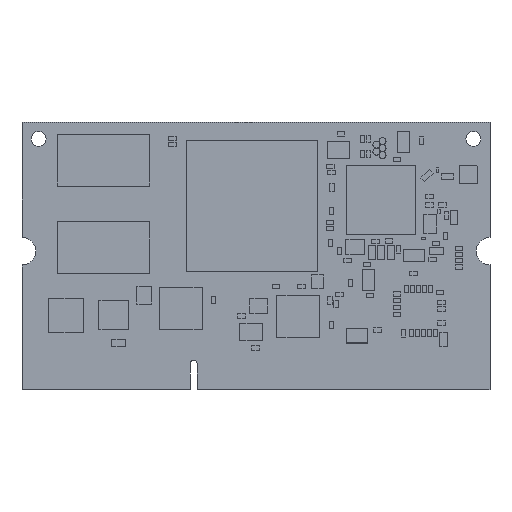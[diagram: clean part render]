
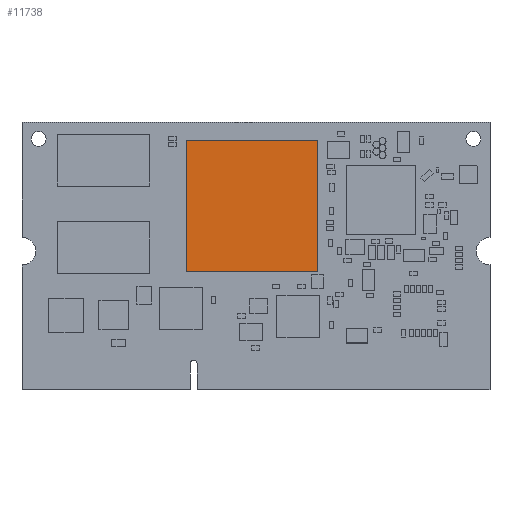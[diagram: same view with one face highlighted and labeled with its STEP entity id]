
A CAD part, top view. The second image highlights one B-rep face of the part: STEP entity #11738.
In plain terms, the highlighted planar face has unit normal (0, 0, 1).
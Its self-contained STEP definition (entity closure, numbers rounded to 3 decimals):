
#1668 = VERTEX_POINT ( 'NONE', #38719 ) ;
#2330 = ORIENTED_EDGE ( 'NONE', *, *, #19533, .T. ) ;
#5774 = CARTESIAN_POINT ( 'NONE',  ( 42.738, 36.037, 2.28 ) ) ;
#6591 = CARTESIAN_POINT ( 'NONE',  ( 23.738, 36.037, 2.28 ) ) ;
#7450 = CARTESIAN_POINT ( 'NONE',  ( 42.738, 17.036, 2.28 ) ) ;
#8796 = DIRECTION ( 'NONE',  ( 0., 0., -1. ) ) ;
#11738 = ADVANCED_FACE ( 'NONE', ( #12713 ), #28762, .F. ) ;
#12713 = FACE_OUTER_BOUND ( 'NONE', #38166, .T. ) ;
#12836 = DIRECTION ( 'NONE',  ( 0., -1., 0. ) ) ;
#14931 = EDGE_CURVE ( 'NONE', #42150, #1668, #43489, .T. ) ;
#16884 = VECTOR ( 'NONE', #21804, 1000. ) ;
#17445 = CARTESIAN_POINT ( 'NONE',  ( 23.738, 17.036, 2.28 ) ) ;
#19533 = EDGE_CURVE ( 'NONE', #28082, #42150, #32806, .T. ) ;
#21804 = DIRECTION ( 'NONE',  ( 0., 1., 0. ) ) ;
#22087 = EDGE_CURVE ( 'NONE', #1668, #44065, #41820, .T. ) ;
#22624 = DIRECTION ( 'NONE',  ( -1., 0., 0. ) ) ;
#23484 = DIRECTION ( 'NONE',  ( 1., 0., 0. ) ) ;
#24831 = DIRECTION ( 'NONE',  ( -1., 0., 0. ) ) ;
#25210 = CARTESIAN_POINT ( 'NONE',  ( 23.738, 36.037, 2.28 ) ) ;
#25851 = CARTESIAN_POINT ( 'NONE',  ( 42.738, 36.037, 2.28 ) ) ;
#28082 = VERTEX_POINT ( 'NONE', #25210 ) ;
#28762 = PLANE ( 'NONE',  #31294 ) ;
#30956 = ORIENTED_EDGE ( 'NONE', *, *, #22087, .T. ) ;
#31294 = AXIS2_PLACEMENT_3D ( 'NONE', #44815, #8796, #24831 ) ;
#32806 = LINE ( 'NONE', #48856, #46137 ) ;
#33148 = VECTOR ( 'NONE', #22624, 1000. ) ;
#38166 = EDGE_LOOP ( 'NONE', ( #43496, #2330, #50575, #30956 ) ) ;
#38719 = CARTESIAN_POINT ( 'NONE',  ( 42.738, 17.036, 2.28 ) ) ;
#40893 = VECTOR ( 'NONE', #23484, 1000. ) ;
#41820 = LINE ( 'NONE', #5774, #16884 ) ;
#42150 = VERTEX_POINT ( 'NONE', #17445 ) ;
#42634 = LINE ( 'NONE', #6591, #33148 ) ;
#43489 = LINE ( 'NONE', #7450, #40893 ) ;
#43496 = ORIENTED_EDGE ( 'NONE', *, *, #45774, .T. ) ;
#44065 = VERTEX_POINT ( 'NONE', #25851 ) ;
#44815 = CARTESIAN_POINT ( 'NONE',  ( 0., 0., 2.28 ) ) ;
#45774 = EDGE_CURVE ( 'NONE', #44065, #28082, #42634, .T. ) ;
#46137 = VECTOR ( 'NONE', #12836, 1000. ) ;
#48856 = CARTESIAN_POINT ( 'NONE',  ( 23.738, 17.036, 2.28 ) ) ;
#50575 = ORIENTED_EDGE ( 'NONE', *, *, #14931, .T. ) ;
